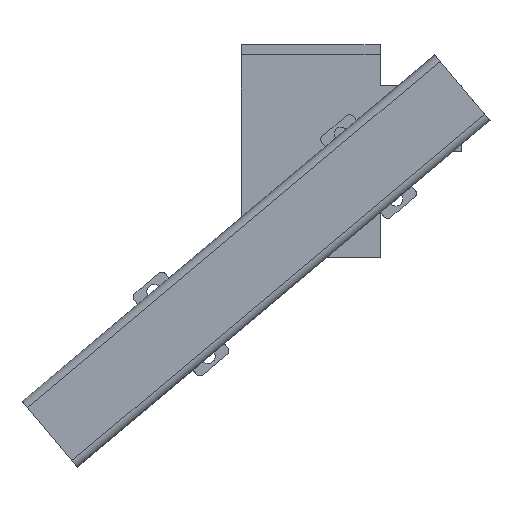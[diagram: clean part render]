
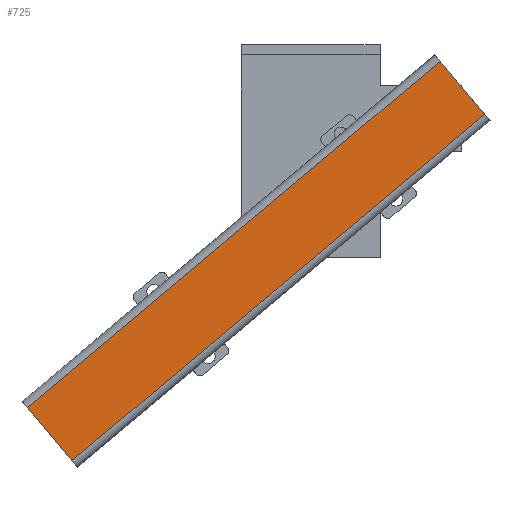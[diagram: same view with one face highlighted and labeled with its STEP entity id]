
A CAD part, front view. The second image highlights one B-rep face of the part: STEP entity #725.
In plain terms, the highlighted planar face has unit normal (0, -1, 0).
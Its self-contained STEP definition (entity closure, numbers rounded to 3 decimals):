
#32 = PLANE('',#33);
#33 = AXIS2_PLACEMENT_3D('',#34,#35,#36);
#34 = CARTESIAN_POINT('',(15.209,-24.6,79.77));
#35 = DIRECTION('',(-0.766,0.,-0.643));
#36 = DIRECTION('',(0.,-1.,0.));
#175 = VERTEX_POINT('',#176);
#176 = CARTESIAN_POINT('',(21.316,-32.2,72.493));
#191 = CYLINDRICAL_SURFACE('',#192,1.);
#192 = AXIS2_PLACEMENT_3D('',#193,#194,#195);
#193 = CARTESIAN_POINT('',(21.316,-31.2,72.493));
#194 = DIRECTION('',(-0.766,0.,-0.643));
#195 = DIRECTION('',(0.643,0.,-0.766)
  );
#203 = EDGE_CURVE('',#204,#175,#206,.T.);
#204 = VERTEX_POINT('',#205);
#205 = CARTESIAN_POINT('',(15.852,-32.2,79.004));
#206 = SURFACE_CURVE('',#207,(#211,#218),.PCURVE_S1.);
#207 = LINE('',#208,#209);
#208 = CARTESIAN_POINT('',(15.209,-32.2,79.77));
#209 = VECTOR('',#210,1.);
#210 = DIRECTION('',(0.643,0.,-0.766)
  );
#211 = PCURVE('',#32,#212);
#212 = DEFINITIONAL_REPRESENTATION('',(#213),#217);
#213 = LINE('',#214,#215);
#214 = CARTESIAN_POINT('',(7.6,0.));
#215 = VECTOR('',#216,1.);
#216 = DIRECTION('',(0.,-1.));
#217 = ( GEOMETRIC_REPRESENTATION_CONTEXT(2) 
PARAMETRIC_REPRESENTATION_CONTEXT() REPRESENTATION_CONTEXT('2D SPACE',''
  ) );
#218 = PCURVE('',#219,#224);
#219 = PLANE('',#220);
#220 = AXIS2_PLACEMENT_3D('',#221,#222,#223);
#221 = CARTESIAN_POINT('',(15.209,-32.2,79.77));
#222 = DIRECTION('',(0.,-1.,0.));
#223 = DIRECTION('',(-0.766,0.,-0.643)
  );
#224 = DEFINITIONAL_REPRESENTATION('',(#225),#229);
#225 = LINE('',#226,#227);
#226 = CARTESIAN_POINT('',(0.,0.));
#227 = VECTOR('',#228,1.);
#228 = DIRECTION('',(0.,1.));
#229 = ( GEOMETRIC_REPRESENTATION_CONTEXT(2) 
PARAMETRIC_REPRESENTATION_CONTEXT() REPRESENTATION_CONTEXT('2D SPACE',''
  ) );
#250 = CYLINDRICAL_SURFACE('',#251,1.);
#251 = AXIS2_PLACEMENT_3D('',#252,#253,#254);
#252 = CARTESIAN_POINT('',(15.852,-31.2,79.004));
#253 = DIRECTION('',(-0.766,0.,-0.643));
#254 = DIRECTION('',(-0.643,0.,0.766)
  );
#397 = PLANE('',#398);
#398 = AXIS2_PLACEMENT_3D('',#399,#400,#401);
#399 = CARTESIAN_POINT('',(-35.35,-24.6,37.346));
#400 = DIRECTION('',(-0.766,0.,-0.643));
#401 = DIRECTION('',(0.,-1.,0.));
#677 = VERTEX_POINT('',#678);
#678 = CARTESIAN_POINT('',(-34.707,-32.2,36.58));
#704 = EDGE_CURVE('',#204,#677,#705,.T.);
#705 = SURFACE_CURVE('',#706,(#710,#717),.PCURVE_S1.);
#706 = LINE('',#707,#708);
#707 = CARTESIAN_POINT('',(15.852,-32.2,79.004));
#708 = VECTOR('',#709,1.);
#709 = DIRECTION('',(-0.766,0.,-0.643));
#710 = PCURVE('',#250,#711);
#711 = DEFINITIONAL_REPRESENTATION('',(#712),#716);
#712 = LINE('',#713,#714);
#713 = CARTESIAN_POINT('',(4.712,0.));
#714 = VECTOR('',#715,1.);
#715 = DIRECTION('',(-0.,1.));
#716 = ( GEOMETRIC_REPRESENTATION_CONTEXT(2) 
PARAMETRIC_REPRESENTATION_CONTEXT() REPRESENTATION_CONTEXT('2D SPACE',''
  ) );
#717 = PCURVE('',#219,#718);
#718 = DEFINITIONAL_REPRESENTATION('',(#719),#723);
#719 = LINE('',#720,#721);
#720 = CARTESIAN_POINT('',(0.,1.));
#721 = VECTOR('',#722,1.);
#722 = DIRECTION('',(1.,0.));
#723 = ( GEOMETRIC_REPRESENTATION_CONTEXT(2) 
PARAMETRIC_REPRESENTATION_CONTEXT() REPRESENTATION_CONTEXT('2D SPACE',''
  ) );
#725 = ADVANCED_FACE('',(#726),#219,.T.);
#726 = FACE_BOUND('',#727,.T.);
#727 = EDGE_LOOP('',(#728,#729,#730,#753));
#728 = ORIENTED_EDGE('',*,*,#203,.F.);
#729 = ORIENTED_EDGE('',*,*,#704,.T.);
#730 = ORIENTED_EDGE('',*,*,#731,.T.);
#731 = EDGE_CURVE('',#677,#732,#734,.T.);
#732 = VERTEX_POINT('',#733);
#733 = CARTESIAN_POINT('',(-29.243,-32.2,30.069));
#734 = SURFACE_CURVE('',#735,(#739,#746),.PCURVE_S1.);
#735 = LINE('',#736,#737);
#736 = CARTESIAN_POINT('',(-35.35,-32.2,37.346));
#737 = VECTOR('',#738,1.);
#738 = DIRECTION('',(0.643,0.,-0.766)
  );
#739 = PCURVE('',#219,#740);
#740 = DEFINITIONAL_REPRESENTATION('',(#741),#745);
#741 = LINE('',#742,#743);
#742 = CARTESIAN_POINT('',(66.,0.));
#743 = VECTOR('',#744,1.);
#744 = DIRECTION('',(0.,1.));
#745 = ( GEOMETRIC_REPRESENTATION_CONTEXT(2) 
PARAMETRIC_REPRESENTATION_CONTEXT() REPRESENTATION_CONTEXT('2D SPACE',''
  ) );
#746 = PCURVE('',#397,#747);
#747 = DEFINITIONAL_REPRESENTATION('',(#748),#752);
#748 = LINE('',#749,#750);
#749 = CARTESIAN_POINT('',(7.6,0.));
#750 = VECTOR('',#751,1.);
#751 = DIRECTION('',(0.,-1.));
#752 = ( GEOMETRIC_REPRESENTATION_CONTEXT(2) 
PARAMETRIC_REPRESENTATION_CONTEXT() REPRESENTATION_CONTEXT('2D SPACE',''
  ) );
#753 = ORIENTED_EDGE('',*,*,#754,.F.);
#754 = EDGE_CURVE('',#175,#732,#755,.T.);
#755 = SURFACE_CURVE('',#756,(#760,#767),.PCURVE_S1.);
#756 = LINE('',#757,#758);
#757 = CARTESIAN_POINT('',(21.316,-32.2,72.493));
#758 = VECTOR('',#759,1.);
#759 = DIRECTION('',(-0.766,0.,-0.643));
#760 = PCURVE('',#219,#761);
#761 = DEFINITIONAL_REPRESENTATION('',(#762),#766);
#762 = LINE('',#763,#764);
#763 = CARTESIAN_POINT('',(0.,9.5));
#764 = VECTOR('',#765,1.);
#765 = DIRECTION('',(1.,0.));
#766 = ( GEOMETRIC_REPRESENTATION_CONTEXT(2) 
PARAMETRIC_REPRESENTATION_CONTEXT() REPRESENTATION_CONTEXT('2D SPACE',''
  ) );
#767 = PCURVE('',#191,#768);
#768 = DEFINITIONAL_REPRESENTATION('',(#769),#773);
#769 = LINE('',#770,#771);
#770 = CARTESIAN_POINT('',(1.571,0.));
#771 = VECTOR('',#772,1.);
#772 = DIRECTION('',(0.,1.));
#773 = ( GEOMETRIC_REPRESENTATION_CONTEXT(2) 
PARAMETRIC_REPRESENTATION_CONTEXT() REPRESENTATION_CONTEXT('2D SPACE',''
  ) );
